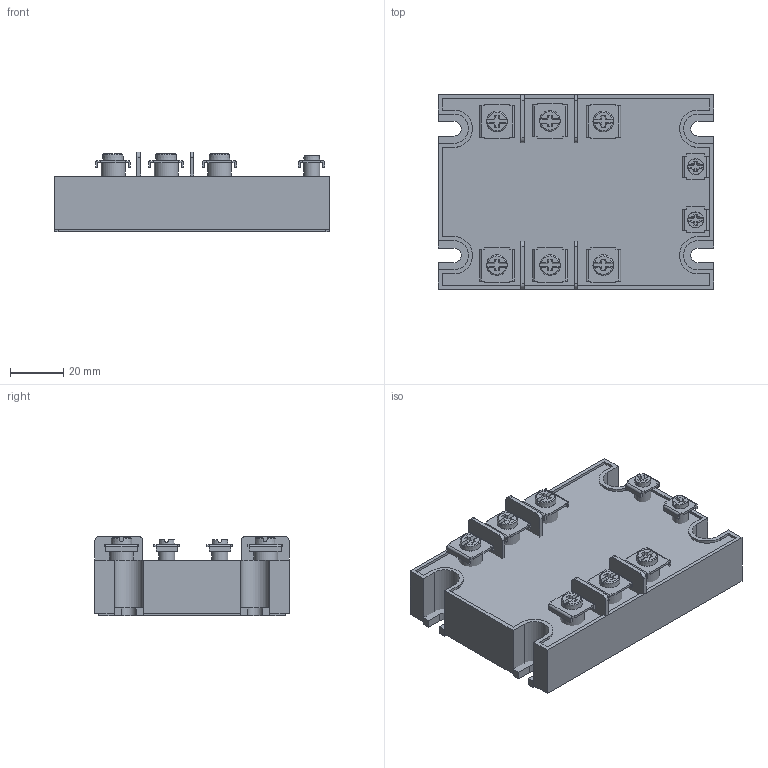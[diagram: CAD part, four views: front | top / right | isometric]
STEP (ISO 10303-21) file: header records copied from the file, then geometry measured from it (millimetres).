
FILE_DESCRIPTION(('FreeCAD Model'),'2;1');
FILE_NAME('C:/Users/Metaltex-99/Desktop/TST.stp','2020-11-05T09:29:41',( 'Engenharia Metaltex'),('Metaltex'), 'Open CASCADE STEP processor 7.3','FreeCAD','Unknown');
FILE_SCHEMA(('AUTOMOTIVE_DESIGN { 1 0 10303 214 1 1 1 1 }'));
Products named in the file (1): TST
Bounding box: 103.5 x 73 x 30 mm (x, y, z)
Volume: 51940.8 mm3; surface area: 61702.4 mm2
Topology: 31 solids, 31 shells, 692 faces, 5396 edges, 8188 vertices
Faces by surface type: plane 538, cylinder 128, torus 18, cone 8
Full cylindrical faces by diameter (mm): 3 x4, 4 x16, 4.5 x8, 6 x16, 9 x12
Entity records: 86642 total; most frequent: CARTESIAN_POINT 20361, DIRECTION 10993, LINE 7097, VECTOR 7097, GEOMETRIC_CURVE_SET 3624, TRIMMED_CURVE 3624, ORIENTED_EDGE 3544, PCURVE 3544
